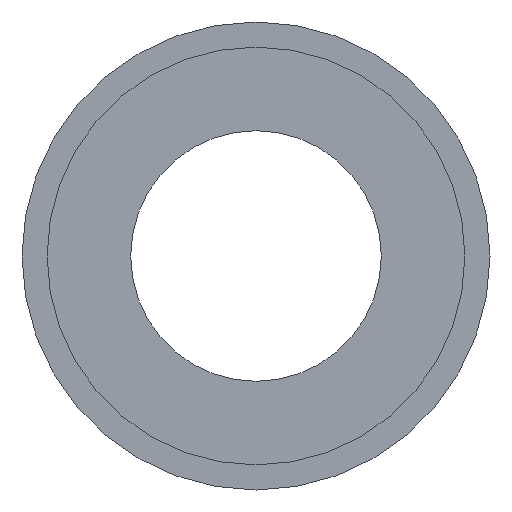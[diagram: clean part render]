
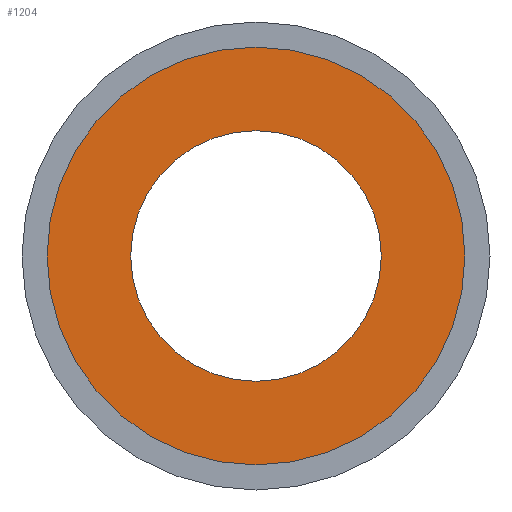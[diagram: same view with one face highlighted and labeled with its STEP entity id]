
A CAD part, front view. The second image highlights one B-rep face of the part: STEP entity #1204.
In plain terms, the highlighted planar face has unit normal (0, -1, 0).
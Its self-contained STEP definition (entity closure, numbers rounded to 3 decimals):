
#27 = EDGE_CURVE ( 'NONE', #318, #598, #1772, .T. ) ;
#65 = CARTESIAN_POINT ( 'NONE',  ( 0., -16.5, 0. ) ) ;
#79 = DIRECTION ( 'NONE',  ( 0., 0., -1. ) ) ;
#191 = EDGE_LOOP ( 'NONE', ( #3007, #2465 ) ) ;
#210 = DIRECTION ( 'NONE',  ( 0., 0., -1. ) ) ;
#283 = EDGE_CURVE ( 'NONE', #598, #318, #2132, .T. ) ;
#296 = CARTESIAN_POINT ( 'NONE',  ( 0., -16.5, 22.5 ) ) ;
#318 = VERTEX_POINT ( 'NONE', #681 ) ;
#319 = PLANE ( 'NONE',  #2650 ) ;
#443 = DIRECTION ( 'NONE',  ( 0., -1., 0. ) ) ;
#568 = CARTESIAN_POINT ( 'NONE',  ( 0., -16.5, 22.5 ) ) ;
#573 = FACE_OUTER_BOUND ( 'NONE', #3190, .T. ) ;
#598 = VERTEX_POINT ( 'NONE', #296 ) ;
#681 = CARTESIAN_POINT ( 'NONE',  ( 0., -16.5, -22.5 ) ) ;
#897 = CARTESIAN_POINT ( 'NONE',  ( 0., -16.5, 0. ) ) ;
#1091 = VERTEX_POINT ( 'NONE', #3072 ) ;
#1116 = EDGE_CURVE ( 'NONE', #1654, #1091, #3254, .T. ) ;
#1122 = AXIS2_PLACEMENT_3D ( 'NONE', #1855, #1359, #3156 ) ;
#1204 = ADVANCED_FACE ( 'NONE', ( #2613, #573 ), #319, .F. ) ;
#1359 = DIRECTION ( 'NONE',  ( 0., -1., 0. ) ) ;
#1423 = DIRECTION ( 'NONE',  ( 0., 0., -1. ) ) ;
#1491 = AXIS2_PLACEMENT_3D ( 'NONE', #65, #1822, #79 ) ;
#1654 = VERTEX_POINT ( 'NONE', #3077 ) ;
#1772 = CIRCLE ( 'NONE', #1122, 22.5 ) ;
#1822 = DIRECTION ( 'NONE',  ( 0., -1., 0. ) ) ;
#1855 = CARTESIAN_POINT ( 'NONE',  ( 0., -16.5, 0. ) ) ;
#2132 = CIRCLE ( 'NONE', #3241, 22.5 ) ;
#2160 = AXIS2_PLACEMENT_3D ( 'NONE', #897, #2447, #1423 ) ;
#2223 = CARTESIAN_POINT ( 'NONE',  ( 0., -16.5, 0. ) ) ;
#2425 = CIRCLE ( 'NONE', #2160, 37.5 ) ;
#2447 = DIRECTION ( 'NONE',  ( 0., -1., 0. ) ) ;
#2465 = ORIENTED_EDGE ( 'NONE', *, *, #283, .F. ) ;
#2613 = FACE_BOUND ( 'NONE', #191, .T. ) ;
#2650 = AXIS2_PLACEMENT_3D ( 'NONE', #568, #2858, #3089 ) ;
#2858 = DIRECTION ( 'NONE',  ( 0., 1., 0. ) ) ;
#2889 = EDGE_CURVE ( 'NONE', #1091, #1654, #2425, .T. ) ;
#2936 = ORIENTED_EDGE ( 'NONE', *, *, #1116, .T. ) ;
#3007 = ORIENTED_EDGE ( 'NONE', *, *, #27, .F. ) ;
#3072 = CARTESIAN_POINT ( 'NONE',  ( 0., -16.5, 37.5 ) ) ;
#3077 = CARTESIAN_POINT ( 'NONE',  ( 0., -16.5, -37.5 ) ) ;
#3089 = DIRECTION ( 'NONE',  ( 0., 0., 1. ) ) ;
#3156 = DIRECTION ( 'NONE',  ( 0., 0., -1. ) ) ;
#3190 = EDGE_LOOP ( 'NONE', ( #2936, #3199 ) ) ;
#3199 = ORIENTED_EDGE ( 'NONE', *, *, #2889, .T. ) ;
#3241 = AXIS2_PLACEMENT_3D ( 'NONE', #2223, #443, #210 ) ;
#3254 = CIRCLE ( 'NONE', #1491, 37.5 ) ;
